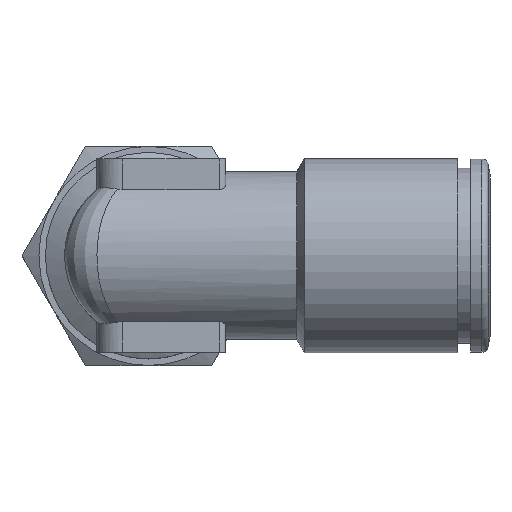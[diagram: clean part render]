
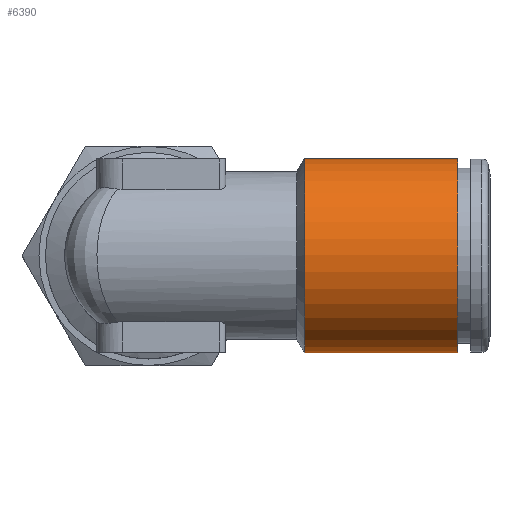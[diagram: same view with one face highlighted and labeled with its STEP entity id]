
A CAD part, top view. The second image highlights one B-rep face of the part: STEP entity #6390.
In plain terms, the highlighted cylindrical face has radius 7.55 mm (diameter 15.1 mm), a full revolution.
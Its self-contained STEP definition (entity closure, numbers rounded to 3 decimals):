
#1854=CYLINDRICAL_SURFACE('',#6208,7.55);
#2167=ORIENTED_EDGE('',*,*,#2660,.T.);
#2168=ORIENTED_EDGE('',*,*,#2661,.F.);
#2420=CIRCLE('',#6207,7.55);
#2421=CIRCLE('',#6209,7.55);
#2516=VERTEX_POINT('',#4272);
#2517=VERTEX_POINT('',#4275);
#2660=EDGE_CURVE('',#2516,#2516,#2420,.T.);
#2661=EDGE_CURVE('',#2517,#2517,#2421,.T.);
#2833=EDGE_LOOP('',(#2167));
#2834=EDGE_LOOP('',(#2168));
#2973=FACE_BOUND('',#2833,.T.);
#2974=FACE_BOUND('',#2834,.T.);
#3260=DIRECTION('',(-1.,0.,0.));
#3261=DIRECTION('',(0.,7.55,0.));
#3262=DIRECTION('',(-1.,0.,0.));
#3263=DIRECTION('',(0.,1.,0.));
#3264=DIRECTION('',(-1.,0.,0.));
#3265=DIRECTION('',(0.,7.55,0.));
#4272=CARTESIAN_POINT('',(37.673,26.688,0.));
#4273=CARTESIAN_POINT('',(37.673,19.138,0.));
#4274=CARTESIAN_POINT('',(37.673,19.138,0.));
#4275=CARTESIAN_POINT('',(25.779,26.688,0.));
#4276=CARTESIAN_POINT('',(25.779,19.138,0.));
#6207=AXIS2_PLACEMENT_3D('',#4273,#3260,#3261);
#6208=AXIS2_PLACEMENT_3D('',#4274,#3262,#3263);
#6209=AXIS2_PLACEMENT_3D('',#4276,#3264,#3265);
#6390=ADVANCED_FACE('',(#2973,#2974),#1854,.T.);
